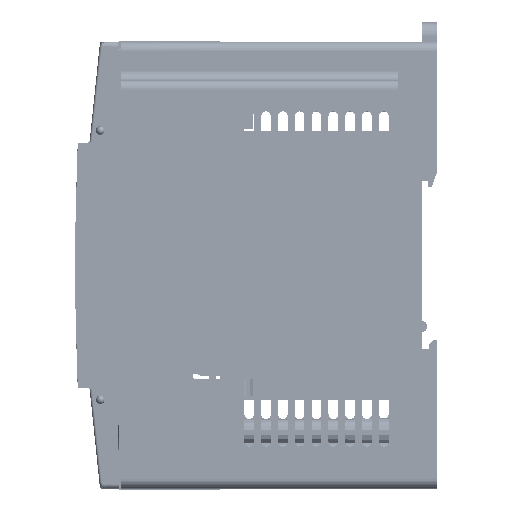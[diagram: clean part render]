
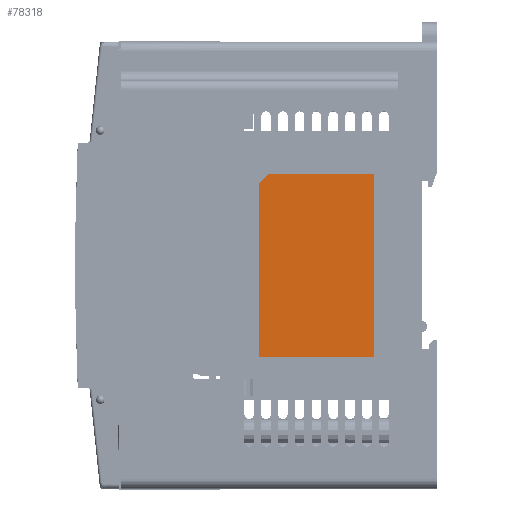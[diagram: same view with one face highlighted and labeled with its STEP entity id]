
A CAD part, left-side view. The second image highlights one B-rep face of the part: STEP entity #78318.
In plain terms, the highlighted planar face has unit normal (-1, 0, 0).
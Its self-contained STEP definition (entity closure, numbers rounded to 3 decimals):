
#1584 = ORIENTED_EDGE ( 'NONE', *, *, #25890, .T. ) ;
#2642 = ORIENTED_EDGE ( 'NONE', *, *, #88678, .T. ) ;
#6164 = CARTESIAN_POINT ( 'NONE',  ( -67.4, 36.996, -19. ) ) ;
#6288 = VERTEX_POINT ( 'NONE', #17531 ) ;
#7802 = CARTESIAN_POINT ( 'NONE',  ( -67.4, 12.996, -19. ) ) ;
#13374 = EDGE_CURVE ( 'NONE', #93299, #6288, #49815, .T. ) ;
#14714 = VECTOR ( 'NONE', #76815, 1000. ) ;
#14907 = DIRECTION ( 'NONE',  ( 0., 0., 1. ) ) ;
#17531 = CARTESIAN_POINT ( 'NONE',  ( -67.4, 36.996, -19. ) ) ;
#18359 = CARTESIAN_POINT ( 'NONE',  ( -67.4, 35., 19. ) ) ;
#18799 = CARTESIAN_POINT ( 'NONE',  ( -67.4, 35., 19. ) ) ;
#21552 = ORIENTED_EDGE ( 'NONE', *, *, #72222, .T. ) ;
#22468 = CARTESIAN_POINT ( 'NONE',  ( -67.4, 36.996, 17. ) ) ;
#25890 = EDGE_CURVE ( 'NONE', #6288, #92140, #55170, .T. ) ;
#37950 = ORIENTED_EDGE ( 'NONE', *, *, #13374, .T. ) ;
#37966 = VERTEX_POINT ( 'NONE', #70298 ) ;
#38234 = CARTESIAN_POINT ( 'NONE',  ( -67.4, 0., 0. ) ) ;
#39151 = DIRECTION ( 'NONE',  ( 1., 0., 0. ) ) ;
#42373 = VECTOR ( 'NONE', #14907, 1000. ) ;
#43371 = EDGE_CURVE ( 'NONE', #37966, #69968, #56150, .T. ) ;
#44936 = VECTOR ( 'NONE', #49023, 1000. ) ;
#45260 = LINE ( 'NONE', #7802, #42373 ) ;
#49023 = DIRECTION ( 'NONE',  ( 0., 1., 0. ) ) ;
#49815 = LINE ( 'NONE', #6164, #83853 ) ;
#50124 = ORIENTED_EDGE ( 'NONE', *, *, #43371, .T. ) ;
#52971 = PLANE ( 'NONE',  #72221 ) ;
#55170 = LINE ( 'NONE', #69883, #72876 ) ;
#56150 = LINE ( 'NONE', #85124, #44936 ) ;
#62791 = DIRECTION ( 'NONE',  ( 0., -1., 0. ) ) ;
#65711 = CARTESIAN_POINT ( 'NONE',  ( -67.4, 12.996, -19. ) ) ;
#67710 = FACE_OUTER_BOUND ( 'NONE', #93491, .T. ) ;
#69883 = CARTESIAN_POINT ( 'NONE',  ( -67.4, 12.996, -19. ) ) ;
#69968 = VERTEX_POINT ( 'NONE', #18799 ) ;
#70298 = CARTESIAN_POINT ( 'NONE',  ( -67.4, 12.996, 19. ) ) ;
#71068 = LINE ( 'NONE', #18359, #14714 ) ;
#72221 = AXIS2_PLACEMENT_3D ( 'NONE', #38234, #39151, #81510 ) ;
#72222 = EDGE_CURVE ( 'NONE', #92140, #37966, #45260, .T. ) ;
#72876 = VECTOR ( 'NONE', #62791, 1000. ) ;
#76815 = DIRECTION ( 'NONE',  ( 0., 0.706, -0.708 ) ) ;
#78318 = ADVANCED_FACE ( 'NONE', ( #67710 ), #52971, .F. ) ;
#81510 = DIRECTION ( 'NONE',  ( 0., 0., -1. ) ) ;
#83853 = VECTOR ( 'NONE', #86391, 1000. ) ;
#85124 = CARTESIAN_POINT ( 'NONE',  ( -67.4, 12.996, 19. ) ) ;
#86391 = DIRECTION ( 'NONE',  ( 0., 0., -1. ) ) ;
#88678 = EDGE_CURVE ( 'NONE', #69968, #93299, #71068, .T. ) ;
#92140 = VERTEX_POINT ( 'NONE', #65711 ) ;
#93299 = VERTEX_POINT ( 'NONE', #22468 ) ;
#93491 = EDGE_LOOP ( 'NONE', ( #1584, #21552, #50124, #2642, #37950 ) ) ;
